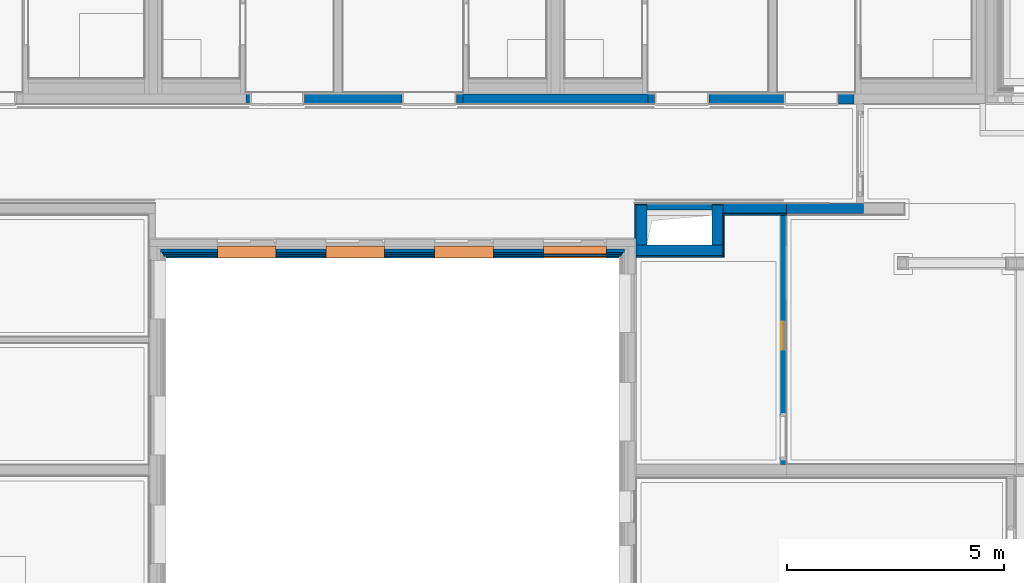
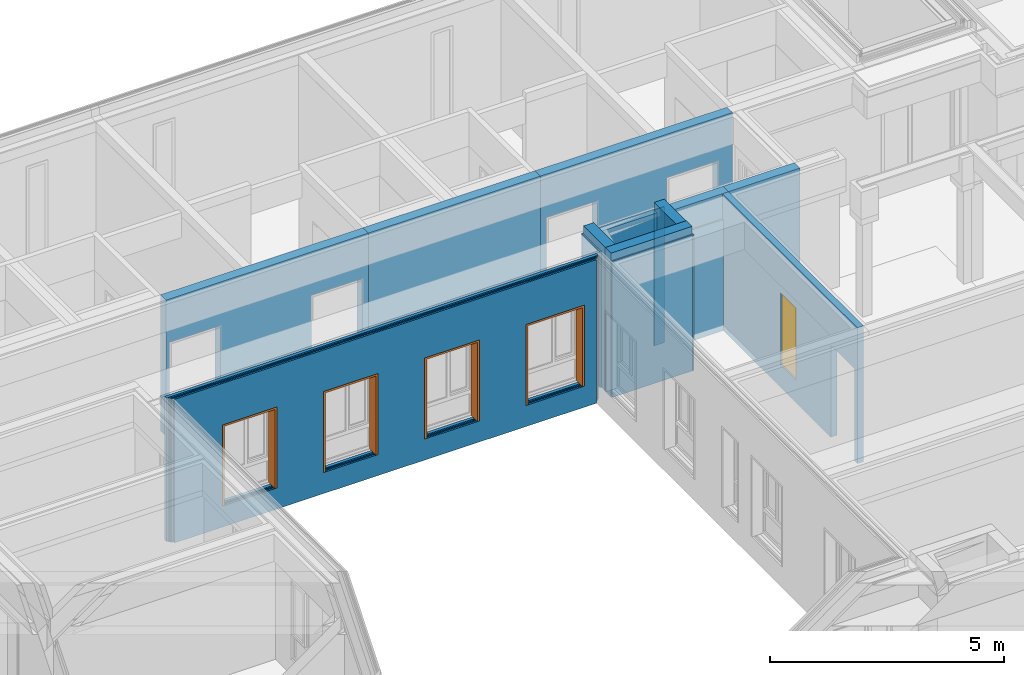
# One storey, part 18 of 222: 21 walls, 4 proxies, 1 window, 26 openings.
"""IFC4 building model written with IfcOpenShell, lengths in metres."""

from ifc_helpers import new_model, entity, si_unit, converted_unit, derived_unit, frame, frame_2d, origin, origin_with_axes, place, context, subcontext, project, spatial, polyline, rectangle, outline, extrude, clip, bounded_halfspace, open_shell, faceted_brep, surface_model, source, transform, mapped, material, element, fill, save


model = new_model("IFC4")

# Units and contexts
model_context = context("Model", 3, precision=1e-05, world=origin())
body_context = subcontext(model_context, "Body", "Model", "MODEL_VIEW")
ifc_project = project(units=[si_unit("LENGTHUNIT", "METRE"), si_unit("AREAUNIT", "SQUARE_METRE"), si_unit("VOLUMEUNIT", "CUBIC_METRE"), si_unit("MASSUNIT", "GRAM", prefix="KILO"), converted_unit("PLANEANGLEUNIT", "DEGREE", entity("IfcPlaneAngleMeasure", 0.0174532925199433), si_unit("PLANEANGLEUNIT", "RADIAN"), dimensions=[0, 0, 0, 0, 0, 0, 0]), derived_unit("THERMALTRANSMITTANCEUNIT", [(si_unit("POWERUNIT", "WATT"), 1), (si_unit("THERMODYNAMICTEMPERATUREUNIT", "KELVIN"), -1), (si_unit("LENGTHUNIT", "METRE"), -2)]), derived_unit("VOLUMETRICFLOWRATEUNIT", [(si_unit("LENGTHUNIT", "METRE"), 3), (converted_unit("TIMEUNIT", "hour", entity("IfcTimeMeasure", 3600.0), si_unit("TIMEUNIT", "SECOND"), dimensions=[0, 0, 1, 0, 0, 0, 0]), -1), (si_unit("LENGTHUNIT", "METRE"), -1)])], contexts=[model_context])

# Site, building, storey
site_placement = place(None, origin())
site = spatial("IfcSite", under=ifc_project, at=site_placement, Name="Psychiatrie Neubau Wunstorf", CompositionType="ELEMENT")
building_placement = place(site_placement, origin())
building = spatial("IfcBuilding", under=site, at=building_placement, Name="Neubau H2 Stationsgebäude", CompositionType="ELEMENT")
storey_placement = place(building_placement, frame((0.0, 0.0, 3.6)))
storey = spatial("IfcBuildingStorey", under=building, at=storey_placement, Name="H2 Ebene +1", CompositionType="ELEMENT", Elevation=3.6)

# Wall, openings
ifc_material_1 = material(Name="WA-DL")
wall_1_placement = place(storey_placement, frame((26.585, 20.7816528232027, 0.0), z_axis=(0.0, 0.0, 1.0), x_axis=(-1.0, 0.0, 0.0)))
wall_1 = element("IfcWall", 1, at=wall_1_placement, inside=storey, material=ifc_material_1, context=body_context, shape_type="SweptSolid", body=[
    extrude(rectangle(XDim=10.67, YDim=0.08, at=frame_2d((5.335, 0.04), x_axis=(1.0, 0.0))), origin_with_axes(), (0.0, 0.0, 1.0), 3.75),
])
opening_1_placement = place(wall_1_placement, frame((1.86483590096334, 0.08, 0.55), z_axis=(0.0, -1.0, 0.0), x_axis=(0.0, 0.0, 1.0)))
element("IfcOpeningElement", 2, at=opening_1_placement, cuts=wall_1, Name="Fensteröffnung", ObjectType="Opening", context=body_context, shape_type="SweptSolid", body=[
    extrude(outline(polyline([(2.115, 1.45), (2.115, 0.0), (0.0, 0.0), (0.0, 1.45), (2.115, 1.45)])), origin_with_axes(), (0.0, 0.0, 1.0), 0.08),
])
opening_2_placement = place(wall_1_placement, frame((4.36474878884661, 0.08, 0.55), z_axis=(0.0, -1.0, 0.0), x_axis=(0.0, 0.0, 1.0)))
element("IfcOpeningElement", 3, at=opening_2_placement, cuts=wall_1, Name="Fensteröffnung", ObjectType="Opening", context=body_context, shape_type="SweptSolid", body=[
    extrude(outline(polyline([(2.115, 1.35), (2.115, 0.0), (0.0, 0.0), (0.0, 1.35), (2.115, 1.35)])), origin_with_axes(), (0.0, 0.0, 1.0), 0.08),
])
opening_3_placement = place(wall_1_placement, frame((6.8647487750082, 0.08, 0.55), z_axis=(0.0, -1.0, 0.0), x_axis=(0.0, 0.0, 1.0)))
element("IfcOpeningElement", 4, at=opening_3_placement, cuts=wall_1, Name="Fensteröffnung", ObjectType="Opening", context=body_context, shape_type="SweptSolid", body=[
    extrude(outline(polyline([(2.115, 1.35), (2.115, 0.0), (0.0, 0.0), (0.0, 1.35), (2.115, 1.35)])), origin_with_axes(), (0.0, 0.0, 1.0), 0.08),
])
opening_4_placement = place(wall_1_placement, frame((9.36474878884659, 0.08, 0.55), z_axis=(0.0, -1.0, 0.0), x_axis=(0.0, 0.0, 1.0)))
element("IfcOpeningElement", 5, at=opening_4_placement, cuts=wall_1, Name="Fensteröffnung", ObjectType="Opening", context=body_context, shape_type="SweptSolid", body=[
    extrude(outline(polyline([(2.115, 1.35), (2.115, 0.0), (0.0, 0.0), (0.0, 1.35), (2.115, 1.35)])), origin_with_axes(), (0.0, 0.0, 1.0), 0.08),
])

ifc_material_2 = material(Name="WA-LB")
wall_2_placement = place(storey_placement, frame((26.549, 20.7016528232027, 0.0), z_axis=(0.0, 0.0, 1.0), x_axis=(-1.0, 0.0, 0.0)))
wall_2 = element("IfcWall", 6, at=wall_2_placement, inside=storey, material=ifc_material_2, context=body_context, shape_type="SweptSolid", body=[
    extrude(rectangle(XDim=10.598, YDim=0.036, at=frame_2d((5.299, 0.018), x_axis=(1.0, 0.0))), origin_with_axes(), (0.0, 0.0, 1.0), 3.75),
])
opening_5_placement = place(wall_2_placement, frame((1.82883590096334, 0.036, 0.55), z_axis=(0.0, -1.0, 0.0), x_axis=(0.0, 0.0, 1.0)))
element("IfcOpeningElement", 7, at=opening_5_placement, cuts=wall_2, Name="Fensteröffnung", ObjectType="Opening", context=body_context, shape_type="SweptSolid", body=[
    extrude(outline(polyline([(2.115, 1.45), (2.115, 0.0), (0.0, 0.0), (0.0, 1.45), (2.115, 1.45)])), origin_with_axes(), (0.0, 0.0, 1.0), 0.036),
])
opening_6_placement = place(wall_2_placement, frame((4.32874878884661, 0.036, 0.55), z_axis=(0.0, -1.0, 0.0), x_axis=(0.0, 0.0, 1.0)))
element("IfcOpeningElement", 8, at=opening_6_placement, cuts=wall_2, Name="Fensteröffnung", ObjectType="Opening", context=body_context, shape_type="SweptSolid", body=[
    extrude(outline(polyline([(2.115, 1.35), (2.115, 0.0), (0.0, 0.0), (0.0, 1.35), (2.115, 1.35)])), origin_with_axes(), (0.0, 0.0, 1.0), 0.036),
])
opening_7_placement = place(wall_2_placement, frame((6.8287487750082, 0.036, 0.55), z_axis=(0.0, -1.0, 0.0), x_axis=(0.0, 0.0, 1.0)))
element("IfcOpeningElement", 9, at=opening_7_placement, cuts=wall_2, Name="Fensteröffnung", ObjectType="Opening", context=body_context, shape_type="SweptSolid", body=[
    extrude(outline(polyline([(2.115, 1.35), (2.115, 0.0), (0.0, 0.0), (0.0, 1.35), (2.115, 1.35)])), origin_with_axes(), (0.0, 0.0, 1.0), 0.036),
])
opening_8_placement = place(wall_2_placement, frame((9.32874878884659, 0.036, 0.55), z_axis=(0.0, -1.0, 0.0), x_axis=(0.0, 0.0, 1.0)))
element("IfcOpeningElement", 10, at=opening_8_placement, cuts=wall_2, Name="Fensteröffnung", ObjectType="Opening", context=body_context, shape_type="SweptSolid", body=[
    extrude(outline(polyline([(2.115, 1.35), (2.115, 0.0), (0.0, 0.0), (0.0, 1.35), (2.115, 1.35)])), origin_with_axes(), (0.0, 0.0, 1.0), 0.036),
])

ifc_material_3 = material(Name="WA-KL")
wall_3_placement = place(storey_placement, frame((26.525, 20.6656528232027, 0.0), z_axis=(0.0, 0.0, 1.0), x_axis=(-1.0, 0.0, 0.0)))
wall_3 = element("IfcWall", 11, at=wall_3_placement, inside=storey, material=ifc_material_3, context=body_context, shape_type="SweptSolid", body=[
    extrude(rectangle(XDim=10.55, YDim=0.024, at=frame_2d((5.275, 0.012), x_axis=(1.0, 0.0))), origin_with_axes(), (0.0, 0.0, 1.0), 3.75),
])
opening_9_placement = place(wall_3_placement, frame((1.80483590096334, 0.024, 0.55), z_axis=(0.0, -1.0, 0.0), x_axis=(0.0, 0.0, 1.0)))
element("IfcOpeningElement", 12, at=opening_9_placement, cuts=wall_3, Name="Fensteröffnung", ObjectType="Opening", context=body_context, shape_type="SweptSolid", body=[
    extrude(outline(polyline([(2.115, 1.45), (2.115, 0.0), (0.0, 0.0), (0.0, 1.45), (2.115, 1.45)])), origin_with_axes(), (0.0, 0.0, 1.0), 0.024),
])
opening_10_placement = place(wall_3_placement, frame((4.30474878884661, 0.024, 0.55), z_axis=(0.0, -1.0, 0.0), x_axis=(0.0, 0.0, 1.0)))
element("IfcOpeningElement", 13, at=opening_10_placement, cuts=wall_3, Name="Fensteröffnung", ObjectType="Opening", context=body_context, shape_type="SweptSolid", body=[
    extrude(outline(polyline([(2.115, 1.35), (2.115, 0.0), (0.0, 0.0), (0.0, 1.35), (2.115, 1.35)])), origin_with_axes(), (0.0, 0.0, 1.0), 0.024),
])
opening_11_placement = place(wall_3_placement, frame((6.8047487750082, 0.024, 0.55), z_axis=(0.0, -1.0, 0.0), x_axis=(0.0, 0.0, 1.0)))
element("IfcOpeningElement", 14, at=opening_11_placement, cuts=wall_3, Name="Fensteröffnung", ObjectType="Opening", context=body_context, shape_type="SweptSolid", body=[
    extrude(outline(polyline([(2.115, 1.35), (2.115, 0.0), (0.0, 0.0), (0.0, 1.35), (2.115, 1.35)])), origin_with_axes(), (0.0, 0.0, 1.0), 0.024),
])
opening_12_placement = place(wall_3_placement, frame((9.30474878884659, 0.024, 0.55), z_axis=(0.0, -1.0, 0.0), x_axis=(0.0, 0.0, 1.0)))
element("IfcOpeningElement", 15, at=opening_12_placement, cuts=wall_3, Name="Fensteröffnung", ObjectType="Opening", context=body_context, shape_type="SweptSolid", body=[
    extrude(outline(polyline([(2.115, 1.35), (2.115, 0.0), (0.0, 0.0), (0.0, 1.35), (2.115, 1.35)])), origin_with_axes(), (0.0, 0.0, 1.0), 0.024),
])

ifc_material_4 = material(Name="WA-TL")
wall_4_placement = place(storey_placement, frame((26.501, 20.6416528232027, 0.0), z_axis=(0.0, 0.0, 1.0), x_axis=(-1.0, 0.0, 0.0)))
wall_4 = element("IfcWall", 16, at=wall_4_placement, inside=storey, material=ifc_material_4, context=body_context, shape_type="SweptSolid", body=[
    extrude(rectangle(XDim=10.502, YDim=0.024, at=frame_2d((5.251, 0.012), x_axis=(1.0, 0.0))), origin_with_axes(), (0.0, 0.0, 1.0), 3.75),
])
opening_13_placement = place(wall_4_placement, frame((1.78083590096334, 0.024, 0.55), z_axis=(0.0, -1.0, 0.0), x_axis=(0.0, 0.0, 1.0)))
element("IfcOpeningElement", 17, at=opening_13_placement, cuts=wall_4, Name="Fensteröffnung", ObjectType="Opening", context=body_context, shape_type="SweptSolid", body=[
    extrude(outline(polyline([(2.115, 1.45), (2.115, 0.0), (0.0, 0.0), (0.0, 1.45), (2.115, 1.45)])), origin_with_axes(), (0.0, 0.0, 1.0), 0.024),
])
opening_14_placement = place(wall_4_placement, frame((4.28074878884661, 0.024, 0.55), z_axis=(0.0, -1.0, 0.0), x_axis=(0.0, 0.0, 1.0)))
element("IfcOpeningElement", 18, at=opening_14_placement, cuts=wall_4, Name="Fensteröffnung", ObjectType="Opening", context=body_context, shape_type="SweptSolid", body=[
    extrude(outline(polyline([(2.115, 1.35), (2.115, 0.0), (0.0, 0.0), (0.0, 1.35), (2.115, 1.35)])), origin_with_axes(), (0.0, 0.0, 1.0), 0.024),
])
opening_15_placement = place(wall_4_placement, frame((6.7807487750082, 0.024, 0.55), z_axis=(0.0, -1.0, 0.0), x_axis=(0.0, 0.0, 1.0)))
element("IfcOpeningElement", 19, at=opening_15_placement, cuts=wall_4, Name="Fensteröffnung", ObjectType="Opening", context=body_context, shape_type="SweptSolid", body=[
    extrude(outline(polyline([(2.115, 1.35), (2.115, 0.0), (0.0, 0.0), (0.0, 1.35), (2.115, 1.35)])), origin_with_axes(), (0.0, 0.0, 1.0), 0.024),
])
opening_16_placement = place(wall_4_placement, frame((9.28074878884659, 0.024, 0.55), z_axis=(0.0, -1.0, 0.0), x_axis=(0.0, 0.0, 1.0)))
element("IfcOpeningElement", 20, at=opening_16_placement, cuts=wall_4, Name="Fensteröffnung", ObjectType="Opening", context=body_context, shape_type="SweptSolid", body=[
    extrude(outline(polyline([(2.115, 1.35), (2.115, 0.0), (0.0, 0.0), (0.0, 1.35), (2.115, 1.35)])), origin_with_axes(), (0.0, 0.0, 1.0), 0.024),
])

# Wall, openings, proxies
ifc_material_5 = material(Name="WA-HS")
wall_5_placement = place(storey_placement, frame((26.459, 20.6176528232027, 0.0), z_axis=(0.0, 0.0, 1.0), x_axis=(-1.0, 0.0, 0.0)))
wall_5 = element("IfcWall", 21, at=wall_5_placement, inside=storey, material=ifc_material_5, context=body_context, shape_type="SweptSolid", body=[
    extrude(rectangle(XDim=10.418, YDim=0.042, at=frame_2d((5.209, 0.021), x_axis=(1.0, 0.0))), origin_with_axes(), (0.0, 0.0, 1.0), 3.75),
])
opening_17_placement = place(wall_5_placement, frame((1.73883590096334, 0.042, 0.55), z_axis=(0.0, -1.0, 0.0), x_axis=(0.0, 0.0, 1.0)))
opening_17 = element("IfcOpeningElement", 22, at=opening_17_placement, cuts=wall_5, Name="Fensteröffnung", ObjectType="Opening", context=body_context, shape_type="SweptSolid", body=[
    extrude(outline(polyline([(2.115, 1.45), (2.115, 0.0), (0.0, 0.0), (0.0, 1.45), (2.115, 1.45)])), origin_with_axes(), (0.0, 0.0, 1.0), 0.042),
])
opening_18_placement = place(wall_5_placement, frame((4.23874878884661, 0.042, 0.55), z_axis=(0.0, -1.0, 0.0), x_axis=(0.0, 0.0, 1.0)))
opening_18 = element("IfcOpeningElement", 23, at=opening_18_placement, cuts=wall_5, Name="Fensteröffnung", ObjectType="Opening", context=body_context, shape_type="SweptSolid", body=[
    extrude(outline(polyline([(2.115, 1.35), (2.115, 0.0), (0.0, 0.0), (0.0, 1.35), (2.115, 1.35)])), origin_with_axes(), (0.0, 0.0, 1.0), 0.042),
])
opening_19_placement = place(wall_5_placement, frame((6.7387487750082, 0.042, 0.55), z_axis=(0.0, -1.0, 0.0), x_axis=(0.0, 0.0, 1.0)))
opening_19 = element("IfcOpeningElement", 24, at=opening_19_placement, cuts=wall_5, Name="Fensteröffnung", ObjectType="Opening", context=body_context, shape_type="SweptSolid", body=[
    extrude(outline(polyline([(2.115, 1.35), (2.115, 0.0), (0.0, 0.0), (0.0, 1.35), (2.115, 1.35)])), origin_with_axes(), (0.0, 0.0, 1.0), 0.042),
])
opening_20_placement = place(wall_5_placement, frame((9.23874878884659, 0.042, 0.55), z_axis=(0.0, -1.0, 0.0), x_axis=(0.0, 0.0, 1.0)))
opening_20 = element("IfcOpeningElement", 25, at=opening_20_placement, cuts=wall_5, Name="Fensteröffnung", ObjectType="Opening", context=body_context, shape_type="SweptSolid", body=[
    extrude(outline(polyline([(2.115, 1.35), (2.115, 0.0), (0.0, 0.0), (0.0, 1.35), (2.115, 1.35)])), origin_with_axes(), (0.0, 0.0, 1.0), 0.042),
])
ifc_material_6 = material(Name="WA-HS")
proxy_1_placement = place(opening_17_placement, origin())
proxy_1 = element("IfcBuildingElementProxy", 26, at=proxy_1_placement, inside=storey, material=ifc_material_6, context=body_context, shape_type="Brep", body=[
    faceted_brep([(0.0, 0.0, 0.0), (0.0, 0.0, 0.275), (2.115, 0.0, 0.275), (2.115, 0.0, 0.0), (0.0, 0.0500000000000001, 0.275), (0.0, 0.0500000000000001, 0.0), (2.065, 0.05, 0.0), (2.065, 0.05, 0.275), (2.115, 1.45, 0.275), (2.115, 1.45, 0.0), (0.0, 1.45, 0.0), (0.0, 1.4, 0.0), (2.065, 1.4, 0.0), (2.065, 1.4, 0.275), (0.0, 1.4, 0.275), (0.0, 1.45, 0.275)], [[[0, 1, 2, 3]], [[4, 5, 6, 7]], [[0, 5, 4, 1]], [[3, 2, 8, 9]], [[6, 5, 0, 3, 9, 10, 11, 12]], [[13, 14, 15, 8, 2, 1, 4, 7]], [[7, 6, 12, 13]], [[11, 14, 13, 12]], [[15, 10, 9, 8]], [[11, 10, 15, 14]]], orient=[[False], [False], [False], [False], [False], [False], [False], [False], [False], [False]]),
])
fill(opening_17, proxy_1)
ifc_material_7 = material(Name="WA-HS")
proxy_2_placement = place(opening_18_placement, origin())
proxy_2 = element("IfcBuildingElementProxy", 27, at=proxy_2_placement, inside=storey, material=ifc_material_7, context=body_context, shape_type="Brep", body=[
    faceted_brep([(0.0, 0.0, 0.0), (0.0, 0.0, 0.275), (2.115, 0.0, 0.275), (2.115, 0.0, 0.0), (0.0, 0.05, 0.275), (0.0, 0.05, 0.0), (2.065, 0.05, 0.0), (2.065, 0.05, 0.275), (2.115, 1.35, 0.275), (2.115, 1.35, 0.0), (0.0, 1.35, 0.0), (0.0, 1.3, 0.0), (2.065, 1.3, 0.0), (2.065, 1.3, 0.275), (0.0, 1.3, 0.275), (0.0, 1.35, 0.275)], [[[0, 1, 2, 3]], [[4, 5, 6, 7]], [[0, 5, 4, 1]], [[3, 2, 8, 9]], [[6, 5, 0, 3, 9, 10, 11, 12]], [[13, 14, 15, 8, 2, 1, 4, 7]], [[7, 6, 12, 13]], [[11, 14, 13, 12]], [[15, 10, 9, 8]], [[11, 10, 15, 14]]], orient=[[False], [False], [False], [False], [False], [False], [False], [False], [False], [False]]),
])
fill(opening_18, proxy_2)
ifc_material_8 = material(Name="WA-HS")
proxy_3_placement = place(opening_19_placement, origin())
proxy_3 = element("IfcBuildingElementProxy", 28, at=proxy_3_placement, inside=storey, material=ifc_material_8, context=body_context, shape_type="Brep", body=[
    faceted_brep([(0.0, 0.0, 0.0), (0.0, 0.0, 0.275), (2.115, 0.0, 0.275), (2.115, 0.0, 0.0), (0.0, 0.05, 0.275), (0.0, 0.05, 0.0), (2.065, 0.05, 0.0), (2.065, 0.05, 0.275), (2.115, 1.35, 0.275), (2.115, 1.35, 0.0), (0.0, 1.35, 0.0), (0.0, 1.3, 0.0), (2.065, 1.3, 0.0), (2.065, 1.3, 0.275), (0.0, 1.3, 0.275), (0.0, 1.35, 0.275)], [[[0, 1, 2, 3]], [[4, 5, 6, 7]], [[0, 5, 4, 1]], [[3, 2, 8, 9]], [[6, 5, 0, 3, 9, 10, 11, 12]], [[13, 14, 15, 8, 2, 1, 4, 7]], [[7, 6, 12, 13]], [[11, 14, 13, 12]], [[15, 10, 9, 8]], [[11, 10, 15, 14]]], orient=[[False], [False], [False], [False], [False], [False], [False], [False], [False], [False]]),
])
fill(opening_19, proxy_3)
ifc_material_9 = material(Name="WA-HS")
proxy_4_placement = place(opening_20_placement, origin())
proxy_4 = element("IfcBuildingElementProxy", 29, at=proxy_4_placement, inside=storey, material=ifc_material_9, context=body_context, shape_type="Brep", body=[
    faceted_brep([(0.0, 0.0, 0.0), (0.0, 0.0, 0.275), (2.115, 0.0, 0.275), (2.115, 0.0, 0.0), (0.0, 0.05, 0.275), (0.0, 0.05, 0.0), (2.065, 0.05, 0.0), (2.065, 0.05, 0.275), (2.115, 1.35, 0.275), (2.115, 1.35, 0.0), (0.0, 1.35, 0.0), (0.0, 1.3, 0.0), (2.065, 1.3, 0.0), (2.065, 1.3, 0.275), (0.0, 1.3, 0.275), (0.0, 1.35, 0.275)], [[[0, 1, 2, 3]], [[4, 5, 6, 7]], [[0, 5, 4, 1]], [[3, 2, 8, 9]], [[6, 5, 0, 3, 9, 10, 11, 12]], [[13, 14, 15, 8, 2, 1, 4, 7]], [[7, 6, 12, 13]], [[11, 14, 13, 12]], [[15, 10, 9, 8]], [[11, 10, 15, 14]]], orient=[[False], [False], [False], [False], [False], [False], [False], [False], [False], [False]]),
])
fill(opening_20, proxy_4)

# Walls
ifc_material_10 = material(Name="WI-STB")
wall_6_placement = place(storey_placement, frame((27.1, 20.875, 0.0), z_axis=(0.0, 0.0, 1.0), x_axis=(0.0, 1.0, 0.0)))
element("IfcWall", 30, at=wall_6_placement, inside=storey, material=ifc_material_10, context=body_context, shape_type="Clipping", body=[
    clip(extrude(rectangle(XDim=0.931000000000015, YDim=0.25, at=frame_2d((0.465500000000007, 0.125), x_axis=(1.0, 0.0))), origin_with_axes(), (0.0, 0.0, 1.0), 3.75), bounded_halfspace(frame((0.806005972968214, 0.125, 0.1), z_axis=(0.0, 0.0, 1.0), x_axis=(0.0, -1.0, 0.0)), True, origin_with_axes(), polyline([(0.681011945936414, 0.25), (0.681011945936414, 0.0), (0.931000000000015, 0.0), (0.931000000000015, 0.25), (0.681011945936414, 0.25)]))),
])
ifc_material_11 = material(Name="WI-LB")
wall_7_placement = place(storey_placement, frame((28.88, 20.595, 0.0), z_axis=(0.0, 0.0, 1.0), x_axis=(0.0, 1.0, 0.0)))
element("IfcWall", 31, at=wall_7_placement, inside=storey, material=ifc_material_11, context=body_context, shape_type="SweptSolid", body=[
    extrude(rectangle(XDim=0.969, YDim=0.0299996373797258, at=frame_2d((0.4845, 0.0149998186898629), x_axis=(1.0, 0.0))), origin_with_axes(), (0.0, 0.0, 1.0), 3.55),
])
ifc_material_12 = material(Name="WI-LB")
wall_8_placement = place(storey_placement, frame((26.82, 21.806, 0.0), z_axis=(0.0, 0.0, 1.0), x_axis=(0.0, -1.0, 0.0)))
element("IfcWall", 32, at=wall_8_placement, inside=storey, material=ifc_material_12, context=body_context, shape_type="SweptSolid", body=[
    extrude(rectangle(XDim=0.77, YDim=0.03, at=frame_2d((0.385, 0.015), x_axis=(1.0, 0.0))), origin_with_axes(), (0.0, 0.0, 1.0), 3.55),
])
ifc_material_13 = material(Name="WI-STB")
wall_9_placement = place(storey_placement, frame((28.85, 20.875, 0.0), z_axis=(0.0, 0.0, 1.0), x_axis=(0.0, 1.0, 0.0)))
element("IfcWall", 33, at=wall_9_placement, inside=storey, material=ifc_material_13, context=body_context, shape_type="Clipping", body=[
    clip(extrude(rectangle(XDim=0.931000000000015, YDim=0.25, at=frame_2d((0.465500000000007, 0.125), x_axis=(1.0, 0.0))), origin_with_axes(), (0.0, 0.0, 1.0), 3.75), bounded_halfspace(frame((0.806005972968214, 0.125, 0.1), z_axis=(0.0, 0.0, 1.0), x_axis=(0.0, -1.0, 0.0)), True, origin_with_axes(), polyline([(0.681011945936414, 0.25), (0.681011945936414, 0.0), (0.931000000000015, 0.0), (0.931000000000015, 0.25), (0.681011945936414, 0.25)]))),
])
ifc_material_14 = material(Name="WI-STB")
wall_10_placement = place(storey_placement, frame((26.85, 20.625, 0.0)))
element("IfcWall", 34, at=wall_10_placement, inside=storey, material=ifc_material_14, context=body_context, shape_type="SweptSolid", body=[
    extrude(rectangle(XDim=2.0, YDim=0.25, at=frame_2d((1.0, 0.125), x_axis=(1.0, 0.0))), origin_with_axes(), (0.0, 0.0, 1.0), 3.75),
])
ifc_material_15 = material(Name="WI-LB")
wall_11_placement = place(storey_placement, frame((28.85, 21.564, 0.0)))
element("IfcWall", 35, at=wall_11_placement, inside=storey, material=ifc_material_15, context=body_context, shape_type="SweptSolid", body=[
    extrude(rectangle(XDim=1.46684904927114, YDim=0.04, at=frame_2d((0.733424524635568, 0.02), x_axis=(1.0, 0.0))), origin_with_axes(), (0.0, 0.0, 1.0), 2.9),
])
ifc_material_16 = material(Name="WI-HW 60")
wall_12_placement = place(storey_placement, frame((28.85, 21.604, 0.0)))
element("IfcWall", 36, at=wall_12_placement, inside=storey, material=ifc_material_16, context=body_context, shape_type="SweptSolid", body=[
    extrude(outline(polyline([(0.0, 0.0), (1.31684904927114, 0.0), (1.31684904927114, 0.00149999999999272), (1.46684904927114, 0.00149999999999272), (1.46684904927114, 0.232), (0.0, 0.232), (0.0, 0.0)])), origin_with_axes(), (0.0, 0.0, 1.0), 3.55),
])
ifc_material_17 = material(Name="WI-LB")
wall_13_placement = place(storey_placement, frame((28.6, 21.806, 0.0)))
element("IfcWall", 37, at=wall_13_placement, inside=storey, material=ifc_material_17, context=body_context, shape_type="SweptSolid", body=[
    extrude(rectangle(XDim=0.25, YDim=0.0299996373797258, at=frame_2d((0.125, 0.0149998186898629), x_axis=(1.0, 0.0))), origin_with_axes(), (0.0, 0.0, 1.0), 3.55),
])
ifc_material_18 = material(Name="WI-LB")
wall_14_placement = place(storey_placement, frame((26.82, 21.806, 0.0), z_axis=(0.0, 0.0, 1.0), x_axis=(1.0, 1.2992781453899e-14, 0.0)))
element("IfcWall", 38, at=wall_14_placement, inside=storey, material=ifc_material_18, context=body_context, shape_type="SweptSolid", body=[
    extrude(rectangle(XDim=0.28, YDim=0.0299996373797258, at=frame_2d((0.14, 0.0149998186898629), x_axis=(1.0, 0.0))), origin_with_axes(), (0.0, 0.0, 1.0), 3.55),
])

# Wall, openings
ifc_material_19 = material(Name="WI-HW 60")
wall_15_placement = place(storey_placement, frame((17.875, 24.1175, 0.0), z_axis=(0.0, 0.0, 1.0), x_axis=(1.0, -7.27595761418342e-16, 0.0)))
wall_15 = element("IfcWall", 39, at=wall_15_placement, inside=storey, material=ifc_material_19, context=body_context, shape_type="SweptSolid", body=[
    extrude(rectangle(XDim=5.0, YDim=0.232, at=frame_2d((2.5, 0.116), x_axis=(1.0, 0.0))), origin_with_axes(), (0.0, 0.0, 1.0), 3.55),
])
opening_21_placement = place(wall_15_placement, frame((0.0899999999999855, 0.0, 0.0), z_axis=(-7.35044209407e-16, 1.0, 0.0), x_axis=(0.0, 0.0, 1.0)))
element("IfcOpeningElement", 40, at=opening_21_placement, cuts=wall_15, Name="Türöffnung", ObjectType="Opening", context=body_context, shape_type="SweptSolid", body=[
    extrude(outline(polyline([(2.41, 1.26), (2.41, 0.0), (0.0, 0.0), (0.0, 1.26), (2.41, 1.26)])), origin_with_axes(), (0.0, 0.0, 1.0), 0.232),
])
opening_22_placement = place(wall_15_placement, frame((3.58999999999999, 0.0, 0.0), z_axis=(0.0, 1.0, 0.0), x_axis=(0.0, 0.0, 1.0)))
element("IfcOpeningElement", 41, at=opening_22_placement, cuts=wall_15, Name="Türöffnung", ObjectType="Opening", context=body_context, shape_type="SweptSolid", body=[
    extrude(outline(polyline([(2.41, 1.26), (2.41, 0.0), (0.0, 0.0), (0.0, 1.26), (2.41, 1.26)])), origin_with_axes(), (0.0, 0.0, 1.0), 0.232),
])

ifc_material_20 = material(Name="WI-HW 60")
wall_16_placement = place(storey_placement, frame((27.125, 24.1175, 0.0)))
wall_16 = element("IfcWall", 42, at=wall_16_placement, inside=storey, material=ifc_material_20, context=body_context, shape_type="SweptSolid", body=[
    extrude(rectangle(XDim=4.743, YDim=0.232, at=frame_2d((2.3715, 0.116), x_axis=(1.0, 0.0))), origin_with_axes(), (0.0, 0.0, 1.0), 3.55),
])
opening_23_placement = place(wall_16_placement, frame((3.125, 0.0, 0.0), z_axis=(0.0, 1.0, 0.0), x_axis=(0.0, 0.0, 1.0)))
element("IfcOpeningElement", 43, at=opening_23_placement, cuts=wall_16, Name="Türöffnung", ObjectType="Opening", context=body_context, shape_type="SweptSolid", body=[
    extrude(outline(polyline([(2.41, 1.26), (2.41, 0.0), (0.0, 0.0), (0.0, 1.26), (2.41, 1.26)])), origin_with_axes(), (0.0, 0.0, 1.0), 0.232),
])
opening_24_placement = place(wall_16_placement, frame((0.15, 0.0, 0.0), z_axis=(0.0, 1.0, 0.0), x_axis=(0.0, 0.0, 1.0)))
element("IfcOpeningElement", 44, at=opening_24_placement, cuts=wall_16, Name="Türöffnung", ObjectType="Opening", context=body_context, shape_type="SweptSolid", body=[
    extrude(outline(polyline([(2.41, 1.26), (2.41, 0.0), (0.0, 0.0), (0.0, 1.26), (2.41, 1.26)])), origin_with_axes(), (0.0, 0.0, 1.0), 0.232),
])

# Walls
ifc_material_21 = material(Name="WI-HW 60")
wall_17_placement = place(storey_placement, frame((22.875, 24.1175000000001, 0.0), z_axis=(0.0, 0.0, 1.0), x_axis=(1.0, -1.45519152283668e-14, 0.0)))
element("IfcWall", 45, at=wall_17_placement, inside=storey, material=ifc_material_21, context=body_context, shape_type="SweptSolid", body=[
    extrude(rectangle(XDim=4.25, YDim=0.232, at=frame_2d((2.125, 0.116), x_axis=(1.0, 0.0))), origin_with_axes(), (0.0, 0.0, 1.0), 3.55),
])
ifc_material_22 = material(Name="WI-LB")
wall_18_placement = place(storey_placement, frame((27.1, 21.686, 0.0)))
element("IfcWall", 46, at=wall_18_placement, inside=storey, material=ifc_material_22, context=body_context, shape_type="Clipping", body=[
    clip(extrude(rectangle(XDim=1.5, YDim=0.15, at=frame_2d((0.75, 0.075), x_axis=(1.0, 0.0))), origin_with_axes(), (0.0, 0.0, 1.0), 3.55), bounded_halfspace(frame((0.75, 0.0600059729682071, 0.1), z_axis=(0.0, 0.0, 1.0), x_axis=(1.0, 0.0, 0.0)), True, origin_with_axes(), polyline([(0.0, 0.0), (1.5, 0.0), (1.5, 0.120011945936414), (0.0, 0.120011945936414), (0.0, 0.0)]))),
])

# Wall, openings, window
ifc_material_23 = material(Name="WI-LB")
wall_19_placement = place(storey_placement, frame((30.3168490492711, 15.8324990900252, 0.0), z_axis=(0.0, 0.0, 1.0), x_axis=(0.0, 1.0, 0.0)))
wall_19 = element("IfcWall", 47, at=wall_19_placement, inside=storey, material=ifc_material_23, context=body_context, shape_type="Clipping", body=[
    clip(extrude(rectangle(XDim=5.77300090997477, YDim=0.15, at=frame_2d((2.88650045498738, 0.075), x_axis=(1.0, 0.0))), origin_with_axes(), (0.0, 0.0, 1.0), 3.55), bounded_halfspace(frame((5.75150090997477, 0.075, 2.9), z_axis=(0.0, 0.0, 1.0), x_axis=(0.0, -1.0, 0.0)), True, origin_with_axes(), polyline([(5.73150090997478, 0.15), (5.73150090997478, 0.0), (5.77150090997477, 0.0), (5.77150090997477, 0.15), (5.73150090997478, 0.15)]))),
])
opening_25_placement = place(wall_19_placement, frame((2.6325404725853, 0.0, 0.59), z_axis=(0.0, 1.0, 0.0), x_axis=(0.0, 0.0, 1.0)))
opening_25 = element("IfcOpeningElement", 48, at=opening_25_placement, cuts=wall_19, Name="Fensteröffnung", ObjectType="Opening", context=body_context, shape_type="SweptSolid", body=[
    extrude(outline(polyline([(1.88, 0.64994245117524), (1.88, 0.0), (0.0, 0.0), (0.0, 0.64994245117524), (1.88, 0.64994245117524)])), origin_with_axes(), (0.0, 0.0, 1.0), 0.15),
])
opening_26_placement = place(wall_19_placement, frame((0.12500961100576, 0.0, 0.0), z_axis=(0.0, 1.0, 0.0), x_axis=(0.0, 0.0, 1.0)))
element("IfcOpeningElement", 49, at=opening_26_placement, cuts=wall_19, Name="Türöffnung", ObjectType="Opening", context=body_context, shape_type="SweptSolid", body=[
    extrude(outline(polyline([(2.41, 1.01), (2.41, 0.0), (0.0, 0.0), (0.0, 1.01), (2.41, 1.01)])), origin_with_axes(), (0.0, 0.0, 1.0), 0.15),
])
shared_shape = source(origin_with_axes(), body_context, "Body", "SurfaceModel", [
    surface_model("IfcShellBasedSurfaceModel", [(0.0, 0.0350000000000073, 0.0), (0.0, 0.0350000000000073, 1.88), (0.649942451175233, 0.0350000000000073, 1.88), (0.649942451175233, 0.0350000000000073, 0.0)], [open_shell([[[0, 1, 2, 3]]], orient=[[False]])]),
])
window_placement = place(opening_25_placement, frame((0.0, 0.0, 0.08), z_axis=(1.0, 0.0, 0.0), x_axis=(0.0, 1.0, 0.0)))
window = element("IfcWindow", 50, at=window_placement, inside=storey, Name="Fenster", OverallHeight=1.88, OverallWidth=0.64994, PartitioningType="USERDEFINED", PredefinedType="WINDOW", context=body_context, shape_type="MappedRepresentation", body=[
    mapped(shared_shape, transform((0.0, 0.0, 0.0), x_axis=(1.0, 0.0, 0.0), y_axis=(0.0, 1.0, 0.0), z_axis=(0.0, 0.0, 1.0), scale=1.0)),
])
fill(opening_25, window)

# Walls
ifc_material_24 = material(Name="WI-HW 60")
wall_20_placement = place(storey_placement, frame((30.3168490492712, 21.604, 0.0), z_axis=(0.0, 0.0, 1.0), x_axis=(1.0, 9.68122254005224e-14, 0.0)))
element("IfcWall", 51, at=wall_20_placement, inside=storey, material=ifc_material_24, context=body_context, shape_type="SweptSolid", body=[
    extrude(rectangle(XDim=1.76615095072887, YDim=0.232000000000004, at=frame_2d((0.883075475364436, 0.116000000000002), x_axis=(1.0, 0.0))), origin_with_axes(), (0.0, 0.0, 1.0), 3.55),
])
ifc_material_25 = material(Name="WI-LB")
wall_21_placement = place(storey_placement, frame((26.861, 20.595, 0.0)))
element("IfcWall", 52, at=wall_21_placement, inside=storey, material=ifc_material_25, context=body_context, shape_type="SweptSolid", body=[
    extrude(rectangle(XDim=1.98900000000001, YDim=0.0299996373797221, at=frame_2d((0.994500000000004, 0.0149998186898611), x_axis=(1.0, 0.0))), origin_with_axes(), (0.0, 0.0, 1.0), 3.55),
])

save(model, "model.ifc")
